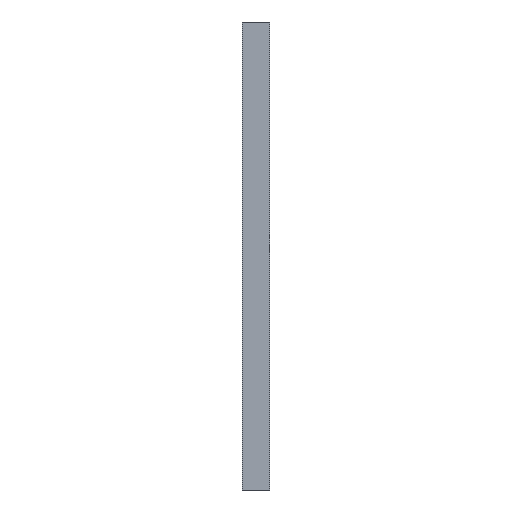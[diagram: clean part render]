
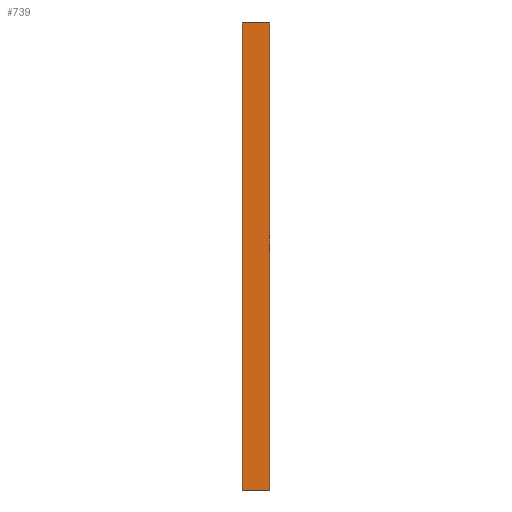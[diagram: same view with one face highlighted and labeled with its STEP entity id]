
A CAD part, left-side view. The second image highlights one B-rep face of the part: STEP entity #739.
In plain terms, the highlighted planar face has unit normal (-1, 0, 0).
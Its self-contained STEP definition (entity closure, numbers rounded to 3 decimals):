
#17 = DIRECTION ( 'NONE',  ( 0., 1., 0. ) ) ;
#54 = VECTOR ( 'NONE', #172, 1000. ) ;
#66 = CARTESIAN_POINT ( 'NONE',  ( -180.5, 0., -309. ) ) ;
#98 = LINE ( 'NONE', #957, #54 ) ;
#172 = DIRECTION ( 'NONE',  ( 0., 0., 1. ) ) ;
#219 = VERTEX_POINT ( 'NONE', #232 ) ;
#224 = VERTEX_POINT ( 'NONE', #66 ) ;
#232 = CARTESIAN_POINT ( 'NONE',  ( -180.5, -20., 30. ) ) ;
#297 = CARTESIAN_POINT ( 'NONE',  ( -180.5, -20., -309. ) ) ;
#305 = ORIENTED_EDGE ( 'NONE', *, *, #1112, .T. ) ;
#308 = CARTESIAN_POINT ( 'NONE',  ( -180.5, -20., 30. ) ) ;
#403 = VERTEX_POINT ( 'NONE', #608 ) ;
#421 = VECTOR ( 'NONE', #693, 1000. ) ;
#486 = ORIENTED_EDGE ( 'NONE', *, *, #822, .F. ) ;
#536 = LINE ( 'NONE', #1062, #1048 ) ;
#540 = LINE ( 'NONE', #297, #551 ) ;
#547 = DIRECTION ( 'NONE',  ( 0., 0., 1. ) ) ;
#551 = VECTOR ( 'NONE', #17, 1000. ) ;
#608 = CARTESIAN_POINT ( 'NONE',  ( -180.5, -20., -309. ) ) ;
#638 = CARTESIAN_POINT ( 'NONE',  ( -180.5, 0., 30. ) ) ;
#682 = CARTESIAN_POINT ( 'NONE',  ( -180.5, -20., -309. ) ) ;
#693 = DIRECTION ( 'NONE',  ( 0., 1., 0. ) ) ;
#704 = DIRECTION ( 'NONE',  ( 0., 0., 1. ) ) ;
#706 = ORIENTED_EDGE ( 'NONE', *, *, #967, .T. ) ;
#739 = ADVANCED_FACE ( 'NONE', ( #1049 ), #776, .T. ) ;
#776 = PLANE ( 'NONE',  #904 ) ;
#822 = EDGE_CURVE ( 'NONE', #224, #868, #536, .T. ) ;
#831 = EDGE_LOOP ( 'NONE', ( #486, #1068, #305, #706 ) ) ;
#859 = EDGE_CURVE ( 'NONE', #403, #224, #540, .T. ) ;
#868 = VERTEX_POINT ( 'NONE', #638 ) ;
#873 = DIRECTION ( 'NONE',  ( -1., 0., 0. ) ) ;
#904 = AXIS2_PLACEMENT_3D ( 'NONE', #682, #873, #704 ) ;
#957 = CARTESIAN_POINT ( 'NONE',  ( -180.5, -20., -309. ) ) ;
#967 = EDGE_CURVE ( 'NONE', #219, #868, #1009, .T. ) ;
#1009 = LINE ( 'NONE', #308, #421 ) ;
#1048 = VECTOR ( 'NONE', #547, 1000. ) ;
#1049 = FACE_OUTER_BOUND ( 'NONE', #831, .T. ) ;
#1062 = CARTESIAN_POINT ( 'NONE',  ( -180.5, 0., -309. ) ) ;
#1068 = ORIENTED_EDGE ( 'NONE', *, *, #859, .F. ) ;
#1112 = EDGE_CURVE ( 'NONE', #403, #219, #98, .T. ) ;
